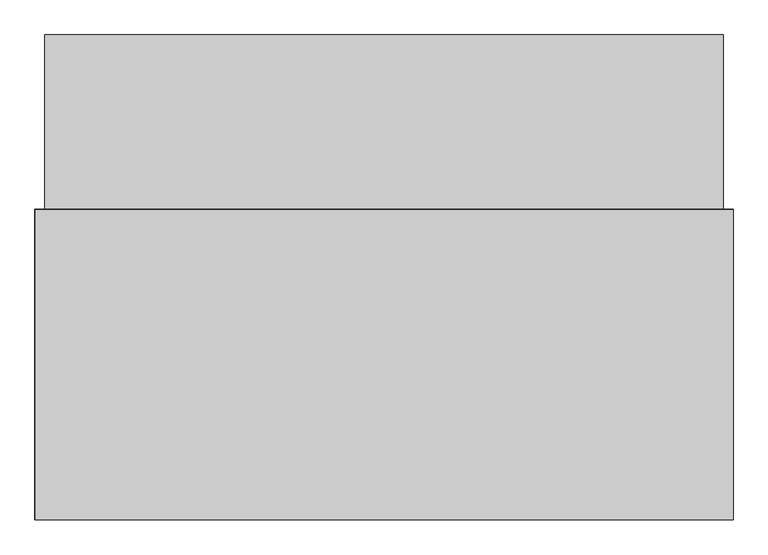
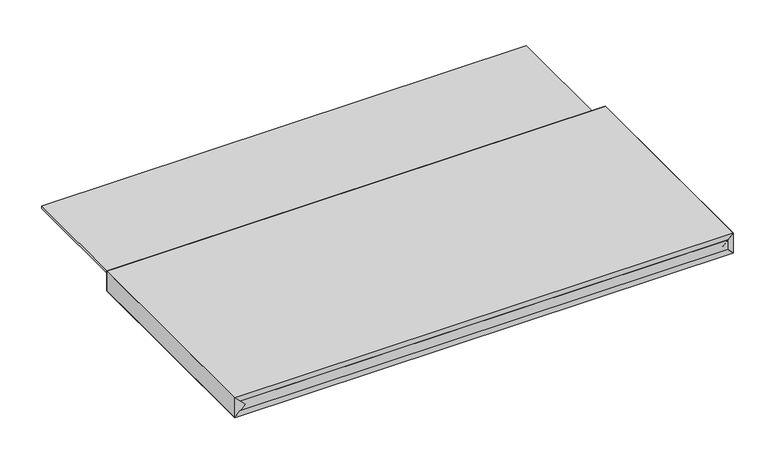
"""IFC4 building model written with IfcOpenShell, lengths in millimetres: proxy geometry, ELEVATE^ADMIN_72x50 DIVIDER WALL-GLASS DIVIDER."""

from ifc_helpers import new_model, si_unit, frame, origin, place, context, project, spatial, polyline, outline, extrude, faceted_brep, source, transform, mapped, element, save


def generic_models_9993ab1e(model_context):
    return source(origin(), model_context, "Body", "SolidModel", [
        faceted_brep([(1828.8, 812.8, 19.05), (1828.8, 812.8, -57.15), (0.0, 812.8, -57.15), (0.0, 812.8, 19.05), (38.1, 774.7, -19.05), (1790.7, 774.7, -19.05)], [[[0, 1, 2, 3]], [[4, 2, 1, 5]], [[4, 3, 2]], [[3, 4, 5, 0]], [[0, 5, 1]]]),
        extrude(outline(polyline([(1803.4, 793.75), (25.4, 793.75), (25.4, 1270.0), (1803.4, 1270.0), (1803.4, 793.75)])), frame((0.0, 0.0, -23.8125), z_axis=(0.0, 0.0, 1.0), x_axis=(1.0, 0.0, 0.0)), (0.0, 0.0, 1.0), 9.525),
        faceted_brep([(1809.75, 0.0, -38.1), (1828.8, 0.0, -57.15), (1828.8, 812.8, -57.15), (1809.75, 793.75, -38.1), (19.05, 0.0, -38.1), (0.0, 0.0, -57.15), (19.05, 793.75, -38.1), (0.0, 812.8, -57.15)], [[[0, 1, 2, 3]], [[1, 0, 4, 5]], [[0, 3, 6, 4]], [[6, 7, 5, 4]], [[3, 2, 7, 6]], [[5, 7, 2, 1]]]),
        faceted_brep([(0.0, 0.0, -57.15), (38.1, 0.0, -19.05), (0.0, 0.0, 19.05), (0.0, 812.8, -57.15), (38.1, 774.7, -19.05), (0.0, 812.8, 19.05)], [[[0, 1, 2]], [[1, 0, 3, 4]], [[1, 4, 5, 2]], [[5, 3, 0, 2]], [[4, 3, 5]]]),
        extrude(outline(polyline([(1809.75, 793.75), (1809.75, 0.0), (19.05, 0.0), (19.05, 793.75), (1809.75, 793.75)])), frame((0.0, 0.0, -38.1), z_axis=(0.0, 0.0, 1.0), x_axis=(1.0, 0.0, 0.0)), (0.0, 0.0, 1.0), 38.1),
        faceted_brep([(1809.75, 793.75, 0.0), (1828.8, 812.8, 19.05), (1828.8, 0.0, 19.05), (1809.75, 0.0, 0.0), (19.05, 793.75, 0.0), (0.0, 812.8, 19.05), (19.05, 0.0, 0.0), (0.0, 0.0, 19.05)], [[[0, 1, 2, 3]], [[1, 0, 4, 5]], [[0, 3, 6, 4]], [[6, 7, 5, 4]], [[3, 2, 7, 6]], [[2, 1, 5, 7]]]),
        faceted_brep([(1828.8, 0.0, 19.05), (1790.7, 0.0, -19.05), (1828.8, 0.0, -57.15), (1828.8, 812.8, 19.05), (1790.7, 774.7, -19.05), (1828.8, 812.8, -57.15)], [[[0, 1, 2]], [[1, 0, 3, 4]], [[1, 4, 5, 2]], [[5, 3, 0, 2]], [[4, 3, 5]]]),
    ])


if __name__ == "__main__":
    model = new_model("IFC4")
    model_context = context("Model", 3, world=origin())
    ifc_project = project(units=[si_unit("LENGTHUNIT", "METRE", prefix="MILLI")], contexts=[model_context])
    site = spatial("IfcSite", under=ifc_project)
    building = spatial("IfcBuilding", under=site)
    placement = place(None, origin())
    generic_models_shape = generic_models_9993ab1e(model_context)
    element("IfcBuildingElementProxy", 1, Name="ELEVATE^ADMIN_72x50 DIVIDER WALL-GLASS DIVIDER", ObjectType="ELEVATE^ADMIN_72x50 DIVIDER WALL-GLASS DIVIDER", at=placement, inside=building, context=model_context, shape_type="MappedRepresentation", body=[
        mapped(generic_models_shape, transform((0.0, 0.0, 0.0), x_axis=(1.0, 0.0, 0.0), y_axis=(0.0, 1.0, 0.0), z_axis=(0.0, 0.0, 1.0))),
    ])
    save(model, "model.ifc")
